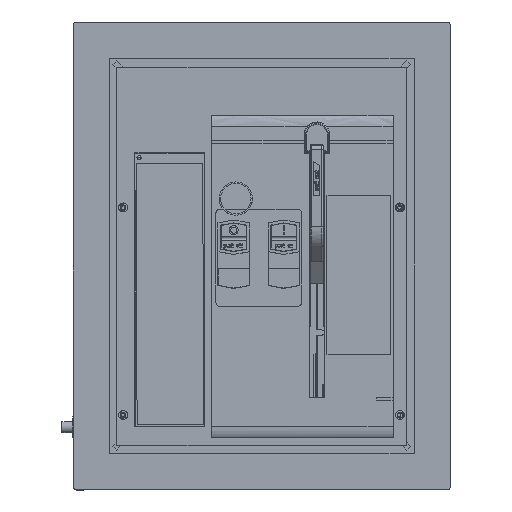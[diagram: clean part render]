
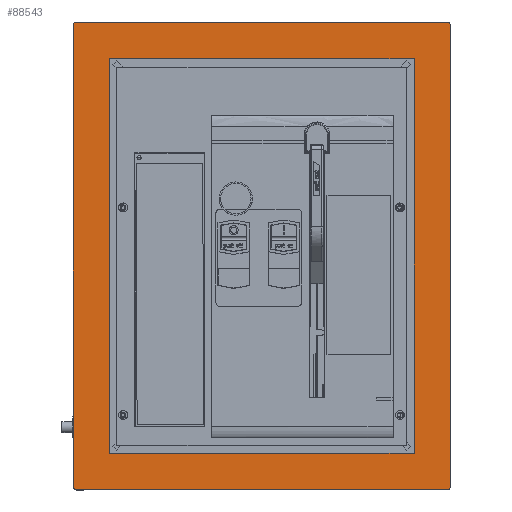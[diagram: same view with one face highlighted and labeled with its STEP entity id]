
A CAD part, top view. The second image highlights one B-rep face of the part: STEP entity #88543.
In plain terms, the highlighted planar face has unit normal (0, 0, 1).
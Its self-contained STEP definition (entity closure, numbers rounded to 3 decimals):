
#841 = CARTESIAN_POINT ( 'NONE',  ( -1242.611, 92.085, 154.457 ) ) ;
#942 = FACE_BOUND ( 'NONE', #108507, .T. ) ;
#1191 = CARTESIAN_POINT ( 'NONE',  ( -1488.611, -217.415, 154.457 ) ) ;
#1990 = VERTEX_POINT ( 'NONE', #6078 ) ;
#2170 = ORIENTED_EDGE ( 'NONE', *, *, #90493, .T. ) ;
#2759 = DIRECTION ( 'NONE',  ( 1., 0., 0. ) ) ;
#4801 = VERTEX_POINT ( 'NONE', #113505 ) ;
#4863 = CARTESIAN_POINT ( 'NONE',  ( -1242.611, 92.085, 154.457 ) ) ;
#4985 = VERTEX_POINT ( 'NONE', #841 ) ;
#5529 = ORIENTED_EDGE ( 'NONE', *, *, #25721, .T. ) ;
#6078 = CARTESIAN_POINT ( 'NONE',  ( -1244.611, 94.085, 154.457 ) ) ;
#7198 = VECTOR ( 'NONE', #60912, 1000. ) ;
#7737 = ORIENTED_EDGE ( 'NONE', *, *, #13616, .F. ) ;
#8048 = PLANE ( 'NONE',  #34399 ) ;
#9198 = DIRECTION ( 'NONE',  ( 0., 0., 1. ) ) ;
#11763 = EDGE_CURVE ( 'NONE', #79114, #96796, #42055, .T. ) ;
#12740 = VERTEX_POINT ( 'NONE', #28620 ) ;
#13616 = EDGE_CURVE ( 'NONE', #96796, #112797, #116109, .T. ) ;
#13709 = LINE ( 'NONE', #4863, #20292 ) ;
#16263 = CARTESIAN_POINT ( 'NONE',  ( -1512.611, 94.085, 154.457 ) ) ;
#20292 = VECTOR ( 'NONE', #74450, 1000. ) ;
#20690 = EDGE_LOOP ( 'NONE', ( #45632, #2170, #114176, #69319, #101120, #5529, #70738, #110911 ) ) ;
#21526 = CARTESIAN_POINT ( 'NONE',  ( -1514.611, 92.085, 154.457 ) ) ;
#22756 = EDGE_CURVE ( 'NONE', #4801, #41302, #52916, .T. ) ;
#25721 = EDGE_CURVE ( 'NONE', #4985, #1990, #73150, .T. ) ;
#25885 = DIRECTION ( 'NONE',  ( -1., 0., 0. ) ) ;
#27049 = VERTEX_POINT ( 'NONE', #1191 ) ;
#28620 = CARTESIAN_POINT ( 'NONE',  ( -1512.611, 94.085, 154.457 ) ) ;
#30757 = CARTESIAN_POINT ( 'NONE',  ( -1268.611, -217.415, 154.457 ) ) ;
#33831 = DIRECTION ( 'NONE',  ( 0., 0., 1. ) ) ;
#34268 = CIRCLE ( 'NONE', #102052, 2. ) ;
#34399 = AXIS2_PLACEMENT_3D ( 'NONE', #36882, #9198, #115948 ) ;
#35560 = DIRECTION ( 'NONE',  ( -1., 0., 0. ) ) ;
#36140 = CARTESIAN_POINT ( 'NONE',  ( -1244.611, -243.915, 154.457 ) ) ;
#36882 = CARTESIAN_POINT ( 'NONE',  ( -1378.611, -74.915, 154.457 ) ) ;
#37432 = LINE ( 'NONE', #83976, #97906 ) ;
#38011 = CARTESIAN_POINT ( 'NONE',  ( -1268.611, 67.585, 154.457 ) ) ;
#39053 = VERTEX_POINT ( 'NONE', #109998 ) ;
#39056 = EDGE_CURVE ( 'NONE', #112797, #27049, #55720, .T. ) ;
#40478 = VERTEX_POINT ( 'NONE', #21526 ) ;
#41302 = VERTEX_POINT ( 'NONE', #108877 ) ;
#41768 = CARTESIAN_POINT ( 'NONE',  ( -1488.611, 67.585, 154.457 ) ) ;
#42055 = LINE ( 'NONE', #86902, #75809 ) ;
#45632 = ORIENTED_EDGE ( 'NONE', *, *, #112314, .F. ) ;
#45911 = VERTEX_POINT ( 'NONE', #90134 ) ;
#48651 = CARTESIAN_POINT ( 'NONE',  ( -1244.611, -241.915, 154.457 ) ) ;
#50393 = DIRECTION ( 'NONE',  ( 0., -1., 0. ) ) ;
#52916 = CIRCLE ( 'NONE', #66122, 2. ) ;
#54566 = DIRECTION ( 'NONE',  ( 0., -1., 0. ) ) ;
#55720 = LINE ( 'NONE', #89989, #60718 ) ;
#56760 = ORIENTED_EDGE ( 'NONE', *, *, #39056, .F. ) ;
#59186 = CARTESIAN_POINT ( 'NONE',  ( -1512.611, -241.915, 154.457 ) ) ;
#60255 = EDGE_CURVE ( 'NONE', #4985, #41302, #13709, .T. ) ;
#60718 = VECTOR ( 'NONE', #54566, 1000. ) ;
#60912 = DIRECTION ( 'NONE',  ( 1., 0., 0. ) ) ;
#61061 = AXIS2_PLACEMENT_3D ( 'NONE', #59186, #33831, #95187 ) ;
#61490 = CARTESIAN_POINT ( 'NONE',  ( -1488.611, -217.415, 154.457 ) ) ;
#66122 = AXIS2_PLACEMENT_3D ( 'NONE', #48651, #104683, #50393 ) ;
#66403 = CARTESIAN_POINT ( 'NONE',  ( -1244.611, 92.085, 154.457 ) ) ;
#66570 = VECTOR ( 'NONE', #35560, 1000. ) ;
#68409 = ORIENTED_EDGE ( 'NONE', *, *, #11763, .F. ) ;
#69319 = ORIENTED_EDGE ( 'NONE', *, *, #22756, .T. ) ;
#70738 = ORIENTED_EDGE ( 'NONE', *, *, #115526, .F. ) ;
#73150 = CIRCLE ( 'NONE', #78788, 2. ) ;
#74450 = DIRECTION ( 'NONE',  ( 0., -1., 0. ) ) ;
#75809 = VECTOR ( 'NONE', #86321, 1000. ) ;
#75832 = DIRECTION ( 'NONE',  ( 0., 0., 1. ) ) ;
#76997 = DIRECTION ( 'NONE',  ( 1., 0., 0. ) ) ;
#78788 = AXIS2_PLACEMENT_3D ( 'NONE', #66403, #75832, #2759 ) ;
#79114 = VERTEX_POINT ( 'NONE', #30757 ) ;
#79328 = LINE ( 'NONE', #16263, #90873 ) ;
#83976 = CARTESIAN_POINT ( 'NONE',  ( -1514.611, -241.915, 154.457 ) ) ;
#84330 = DIRECTION ( 'NONE',  ( 0., 1., 0. ) ) ;
#86321 = DIRECTION ( 'NONE',  ( 0., 1., 0. ) ) ;
#86902 = CARTESIAN_POINT ( 'NONE',  ( -1268.611, -217.415, 154.457 ) ) ;
#87746 = VECTOR ( 'NONE', #25885, 1000. ) ;
#88543 = ADVANCED_FACE ( 'NONE', ( #942, #89414 ), #8048, .T. ) ;
#89414 = FACE_OUTER_BOUND ( 'NONE', #20690, .T. ) ;
#89989 = CARTESIAN_POINT ( 'NONE',  ( -1488.611, 67.585, 154.457 ) ) ;
#90134 = CARTESIAN_POINT ( 'NONE',  ( -1512.611, -243.915, 154.457 ) ) ;
#90493 = EDGE_CURVE ( 'NONE', #39053, #45911, #104437, .T. ) ;
#90524 = DIRECTION ( 'NONE',  ( 0., 1., 0. ) ) ;
#90873 = VECTOR ( 'NONE', #76997, 1000. ) ;
#92024 = DIRECTION ( 'NONE',  ( 0., 0., 1. ) ) ;
#93114 = ORIENTED_EDGE ( 'NONE', *, *, #95870, .F. ) ;
#95187 = DIRECTION ( 'NONE',  ( -1., 0., 0. ) ) ;
#95870 = EDGE_CURVE ( 'NONE', #27049, #79114, #105758, .T. ) ;
#96796 = VERTEX_POINT ( 'NONE', #38011 ) ;
#97906 = VECTOR ( 'NONE', #90524, 1000. ) ;
#100882 = CARTESIAN_POINT ( 'NONE',  ( -1512.611, 92.085, 154.457 ) ) ;
#101120 = ORIENTED_EDGE ( 'NONE', *, *, #60255, .F. ) ;
#102052 = AXIS2_PLACEMENT_3D ( 'NONE', #100882, #92024, #84330 ) ;
#104413 = EDGE_CURVE ( 'NONE', #12740, #40478, #34268, .T. ) ;
#104437 = CIRCLE ( 'NONE', #61061, 2. ) ;
#104683 = DIRECTION ( 'NONE',  ( 0., 0., 1. ) ) ;
#105758 = LINE ( 'NONE', #61490, #7198 ) ;
#106656 = EDGE_CURVE ( 'NONE', #4801, #45911, #116345, .T. ) ;
#107275 = CARTESIAN_POINT ( 'NONE',  ( -1268.611, 67.585, 154.457 ) ) ;
#108507 = EDGE_LOOP ( 'NONE', ( #7737, #68409, #93114, #56760 ) ) ;
#108877 = CARTESIAN_POINT ( 'NONE',  ( -1242.611, -241.915, 154.457 ) ) ;
#109998 = CARTESIAN_POINT ( 'NONE',  ( -1514.611, -241.915, 154.457 ) ) ;
#110911 = ORIENTED_EDGE ( 'NONE', *, *, #104413, .T. ) ;
#112314 = EDGE_CURVE ( 'NONE', #39053, #40478, #37432, .T. ) ;
#112797 = VERTEX_POINT ( 'NONE', #41768 ) ;
#113505 = CARTESIAN_POINT ( 'NONE',  ( -1244.611, -243.915, 154.457 ) ) ;
#114176 = ORIENTED_EDGE ( 'NONE', *, *, #106656, .F. ) ;
#115526 = EDGE_CURVE ( 'NONE', #12740, #1990, #79328, .T. ) ;
#115948 = DIRECTION ( 'NONE',  ( -1., 0., 0. ) ) ;
#116109 = LINE ( 'NONE', #107275, #87746 ) ;
#116345 = LINE ( 'NONE', #36140, #66570 ) ;
